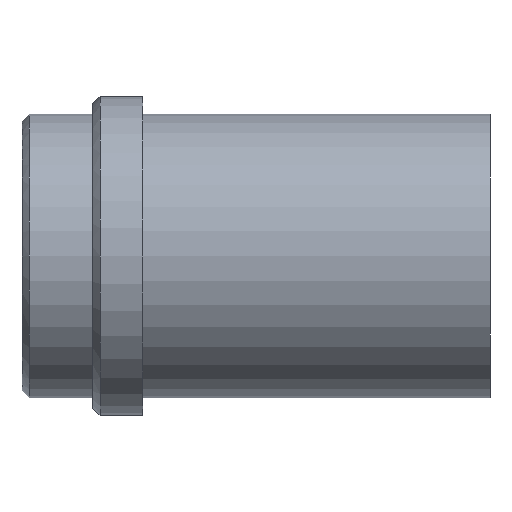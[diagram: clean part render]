
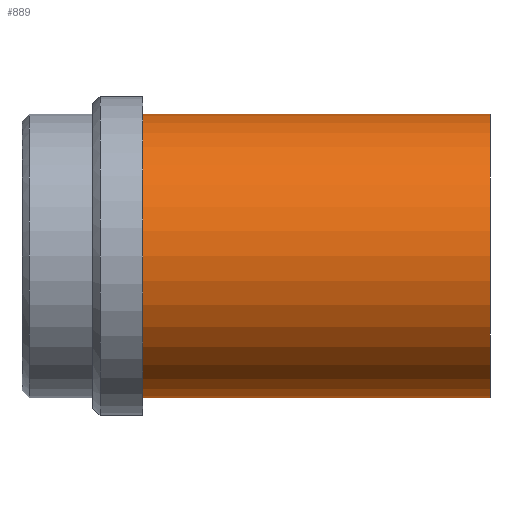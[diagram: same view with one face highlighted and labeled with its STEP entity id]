
A CAD part, front view. The second image highlights one B-rep face of the part: STEP entity #889.
In plain terms, the highlighted cylindrical face has radius 20 mm (diameter 40 mm), a partial arc.
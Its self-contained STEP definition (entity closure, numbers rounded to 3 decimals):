
#723=CARTESIAN_POINT('Vertex',(49.,0.,20.)) ;
#726=CARTESIAN_POINT('Axis2P3D Location',(49.,0.,0.)) ;
#730=CARTESIAN_POINT('Vertex',(49.,-20.,0.)) ;
#733=CARTESIAN_POINT('Axis2P3D Location',(49.,0.,0.)) ;
#737=CARTESIAN_POINT('Vertex',(49.,0.,-20.)) ;
#829=CARTESIAN_POINT('Line Origine',(49.,0.,20.)) ;
#833=CARTESIAN_POINT('Vertex',(0.,0.,20.)) ;
#836=CARTESIAN_POINT('Line Origine',(49.,0.,-20.)) ;
#840=CARTESIAN_POINT('Vertex',(0.,0.,-20.)) ;
#864=CARTESIAN_POINT('Axis2P3D Location',(49.,0.,0.)) ;
#869=CARTESIAN_POINT('Axis2P3D Location',(0.,0.,0.)) ;
#873=CARTESIAN_POINT('Vertex',(0.,-20.,0.)) ;
#876=CARTESIAN_POINT('Axis2P3D Location',(0.,0.,0.)) ;
#727=DIRECTION('Axis2P3D Direction',(1.,0.,-0.)) ;
#734=DIRECTION('Axis2P3D Direction',(1.,0.,-0.)) ;
#830=DIRECTION('Vector Direction',(-1.,0.,0.)) ;
#837=DIRECTION('Vector Direction',(-1.,0.,0.)) ;
#865=DIRECTION('Axis2P3D Direction',(-1.,-0.,-0.)) ;
#866=DIRECTION('Axis2P3D XDirection',(0.,0.,-1.)) ;
#870=DIRECTION('Axis2P3D Direction',(-1.,-0.,-0.)) ;
#877=DIRECTION('Axis2P3D Direction',(-1.,-0.,-0.)) ;
#728=AXIS2_PLACEMENT_3D('Circle Axis2P3D',#726,#727,$) ;
#735=AXIS2_PLACEMENT_3D('Circle Axis2P3D',#733,#734,$) ;
#867=AXIS2_PLACEMENT_3D('Cylinder Axis2P3D',#864,#865,#866) ;
#871=AXIS2_PLACEMENT_3D('Circle Axis2P3D',#869,#870,$) ;
#878=AXIS2_PLACEMENT_3D('Circle Axis2P3D',#876,#877,$) ;
#882=ORIENTED_EDGE('',*,*,#842,.T.) ;
#883=ORIENTED_EDGE('',*,*,#739,.F.) ;
#884=ORIENTED_EDGE('',*,*,#732,.F.) ;
#885=ORIENTED_EDGE('',*,*,#835,.T.) ;
#886=ORIENTED_EDGE('',*,*,#875,.T.) ;
#887=ORIENTED_EDGE('',*,*,#880,.T.) ;
#831=VECTOR('Line Direction',#830,1.) ;
#838=VECTOR('Line Direction',#837,1.) ;
#889=ADVANCED_FACE('358-32X66',(#888),#868,.T.) ;
#729=CIRCLE('generated circle',#728,20.) ;
#736=CIRCLE('generated circle',#735,20.) ;
#872=CIRCLE('generated circle',#871,20.) ;
#879=CIRCLE('generated circle',#878,20.) ;
#868=CYLINDRICAL_SURFACE('generated cylinder',#867,20.) ;
#732=EDGE_CURVE('',#724,#731,#729,.T.) ;
#739=EDGE_CURVE('',#731,#738,#736,.T.) ;
#835=EDGE_CURVE('',#724,#834,#832,.T.) ;
#842=EDGE_CURVE('',#841,#738,#839,.F.) ;
#875=EDGE_CURVE('',#834,#874,#872,.F.) ;
#880=EDGE_CURVE('',#874,#841,#879,.F.) ;
#881=EDGE_LOOP('',(#882,#883,#884,#885,#886,#887)) ;
#888=FACE_OUTER_BOUND('',#881,.T.) ;
#832=LINE('Line',#829,#831) ;
#839=LINE('Line',#836,#838) ;
#724=VERTEX_POINT('',#723) ;
#731=VERTEX_POINT('',#730) ;
#738=VERTEX_POINT('',#737) ;
#834=VERTEX_POINT('',#833) ;
#841=VERTEX_POINT('',#840) ;
#874=VERTEX_POINT('',#873) ;
